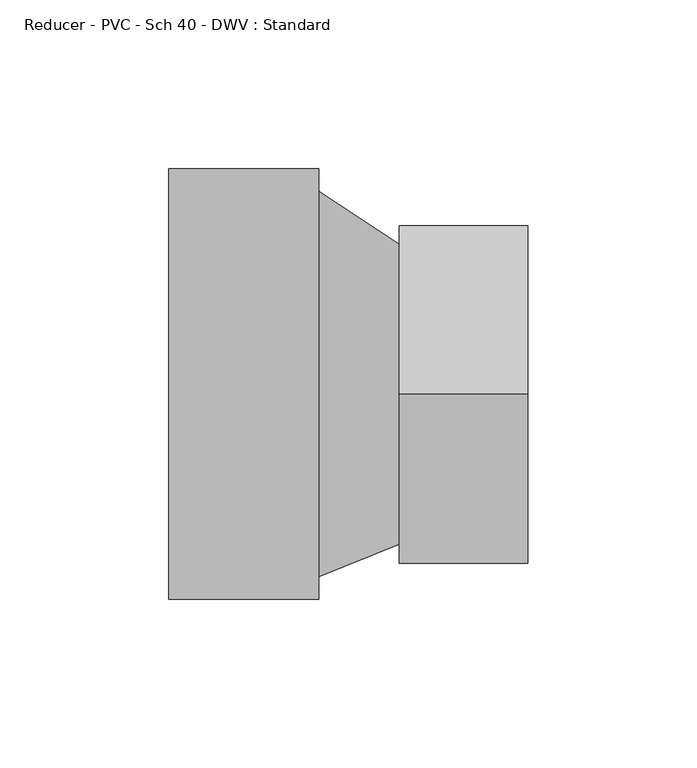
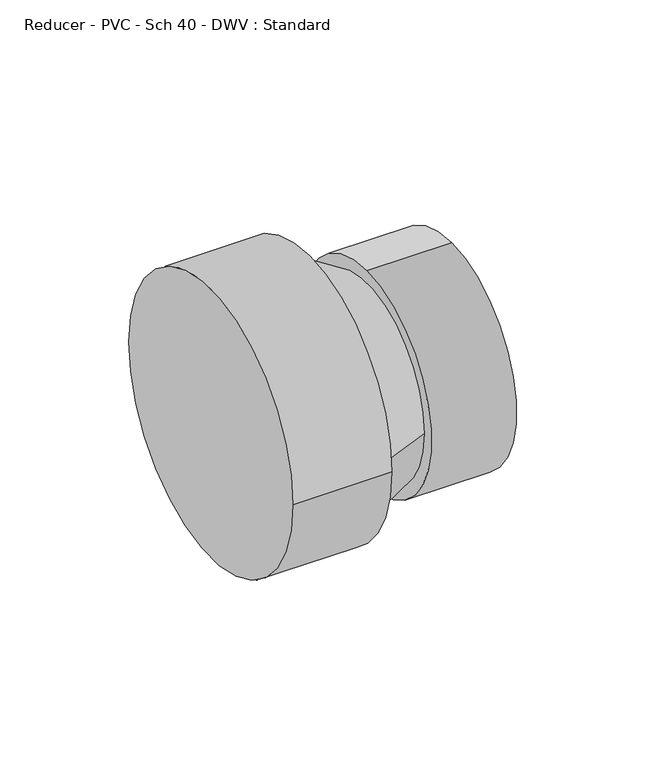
"""IFC4 building model written with IfcOpenShell, lengths in millimetres: pipe fitting geometry, Reducer - PVC - Sch 40 - DWV : Standard."""

from ifc_helpers import new_model, si_unit, frame, origin, place, context, project, spatial, circle_curve, source, transform, mapped, element, save
from ifc_brep_helpers import plane_surface, cylinder_surface, spline_surface, advanced_brep


def reducer_pvc_sch_40_dwv_standard_880e498f(model_context):
    return source(origin(), model_context, "Body", "AdvancedBrep", [
        advanced_brep(
        [(0.0, 63.754, 0.0), (0.0, -63.754, 0.0), (44.45, 63.754, 0.0), (44.45, -63.754, 0.0), (44.45, -57.15, 0.0), (44.45, 57.15, 0.0), (68.2752, 41.4070604, 0.0), (68.2752, -47.4929396, 0.0), (68.2752, -3.0429396, 50.2666), (68.2752, -3.0429396, -50.2666), (106.3752, -3.0429396, 50.2666), (106.3752, -3.0429396, -50.2666)],
        [
            (0, 1, circle_curve(frame((0.0, 0.0, 0.0), z_axis=(-1.0, 0.0, 0.0), x_axis=(0.0, -1.0, 0.0)), 63.754)),
            (1, 0, circle_curve(frame((0.0, 0.0, 0.0), z_axis=(-1.0, 0.0, 0.0), x_axis=(0.0, -1.0, 0.0)), 63.754)),
            (2, 3, circle_curve(frame((44.45, 0.0, 0.0), z_axis=(1.0, 0.0, 0.0), x_axis=(0.0, -1.0, 0.0)), 63.754)),
            (3, 2, circle_curve(frame((44.45, 0.0, 0.0), z_axis=(1.0, 0.0, 0.0), x_axis=(0.0, -1.0, 0.0)), 63.754)),
            (4, 5, circle_curve(frame((44.45, 0.0, 0.0), z_axis=(-1.0, 0.0, 0.0), x_axis=(0.0, -1.0, 0.0)), 57.15)),
            (5, 4, circle_curve(frame((44.45, 0.0, 0.0), z_axis=(-1.0, 0.0, 0.0), x_axis=(0.0, -1.0, 0.0)), 57.15)),
            (1, 3),
            (2, 0),
            (5, 6),
            (6, 7, circle_curve(frame((68.2752, -3.0429396, 0.0), z_axis=(-1.0, 0.0, 0.0), x_axis=(0.0, -1.0, 0.0)), 44.45)),
            (7, 4),
            (7, 6, circle_curve(frame((68.2752, -3.0429396, 0.0), z_axis=(-1.0, 0.0, 0.0), x_axis=(0.0, -1.0, 0.0)), 44.45)),
            (8, 9, circle_curve(frame((68.2752, -3.0429396, 0.0), z_axis=(-1.0, 0.0, 0.0), x_axis=(0.0, 0.0, -1.0)), 50.2666)),
            (9, 8, circle_curve(frame((68.2752, -3.0429396, 0.0), z_axis=(-1.0, 0.0, 0.0), x_axis=(0.0, 0.0, -1.0)), 50.2666)),
            (10, 11, circle_curve(frame((106.3752, -3.0429396, 0.0), z_axis=(1.0, 0.0, 0.0), x_axis=(0.0, 0.0, -1.0)), 50.2666)),
            (11, 10, circle_curve(frame((106.3752, -3.0429396, 0.0), z_axis=(1.0, 0.0, 0.0), x_axis=(0.0, 0.0, -1.0)), 50.2666)),
            (9, 11),
            (10, 8),
        ],
        [
            plane_surface(frame((0.0, 0.0, 0.0), z_axis=(-1.0, 0.0, 0.0), x_axis=(0.0, 0.0, 1.0))),
            plane_surface(frame((44.45, 0.0, 0.0), z_axis=(1.0, 0.0, 0.0), x_axis=(0.0, 0.0, 1.0))),
            cylinder_surface(frame((0.0, 0.0, 0.0), z_axis=(-1.0, 0.0, 0.0), x_axis=(0.0, -1.0, 0.0)), 63.754),
            spline_surface(1, 2, [[(44.45, 57.15, 0.0), (44.45, 57.15, -57.15), (44.45, 0.0, -57.15), (44.45, -57.15, -57.15), (44.45, -57.15, 0.0)], [(68.2752, 41.4070604, 0.0), (68.2752, 41.4070604, -44.449999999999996), (68.2752, -3.0429396, -44.449999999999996), (68.2752, -47.49293959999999, -44.449999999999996), (68.2752, -47.4929396, 0.0)]], [2, 2], [3, 2, 3], [0.0, 1.0], [0.0, 1.0, 2.0], weights=[[1.0, 0.7071067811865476, 1.0, 0.7071067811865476, 1.0], [1.0, 0.7071067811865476, 1.0, 0.7071067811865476, 1.0]]),
            spline_surface(1, 2, [[(44.45, -57.15, 0.0), (44.45, -57.15, 57.15), (44.45, 0.0, 57.15), (44.45, 57.15, 57.15), (44.45, 57.15, 0.0)], [(68.2752, -47.4929396, 0.0), (68.2752, -47.4929396, 44.45), (68.2752, -3.0429396, 44.45), (68.2752, 41.407060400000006, 44.45), (68.2752, 41.4070604, 0.0)]], [2, 2], [3, 2, 3], [0.0, 1.0], [0.0, 1.0, 2.0], weights=[[1.0, 0.7071067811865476, 1.0, 0.7071067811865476, 1.0], [1.0, 0.7071067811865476, 1.0, 0.7071067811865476, 1.0]]),
            plane_surface(frame((68.2752, -3.0429396, 0.0), z_axis=(-1.0, 0.0, 0.0), x_axis=(0.0, -1.0, 0.0))),
            plane_surface(frame((106.3752, -3.0429396, 0.0), z_axis=(1.0, 0.0, 0.0), x_axis=(0.0, -1.0, 0.0))),
            cylinder_surface(frame((68.2752, -3.0429396, 0.0), z_axis=(-1.0, 0.0, 0.0), x_axis=(0.0, 0.0, -1.0)), 50.2666),
        ],
        [
            (0, [[1, 2]]),
            (1, [[3, 4], [5, 6]]),
            (2, [[7, -3, 8, -2]]),
            (2, [[-8, -4, -7, -1]]),
            (3, [[-6, 9, 10, 11]]),
            (4, [[12, -9, -5, -11]]),
            (5, [[13, 14], [-12, -10]]),
            (6, [[15, 16]]),
            (7, [[17, -15, 18, -14]]),
            (7, [[-18, -16, -17, -13]]),
        ],
    ),
    ])


if __name__ == "__main__":
    model = new_model("IFC4")
    model_context = context("Model", 3, world=origin())
    ifc_project = project(units=[si_unit("LENGTHUNIT", "METRE", prefix="MILLI")], contexts=[model_context])
    site = spatial("IfcSite", under=ifc_project)
    building = spatial("IfcBuilding", under=site)
    placement = place(None, origin())
    reducer_pvc_sch_40_dwv_standard_shape = reducer_pvc_sch_40_dwv_standard_880e498f(model_context)
    element("IfcPipeFitting", 1, ObjectType="Reducer - PVC - Sch 40 - DWV : Standard", at=placement, inside=building, context=model_context, shape_type="MappedRepresentation", body=[
        mapped(reducer_pvc_sch_40_dwv_standard_shape, transform((0.0, 0.0, 0.0), x_axis=(1.0, 0.0, 0.0), y_axis=(0.0, 1.0, 0.0), z_axis=(0.0, 0.0, 1.0))),
    ])
    save(model, "model.ifc")
